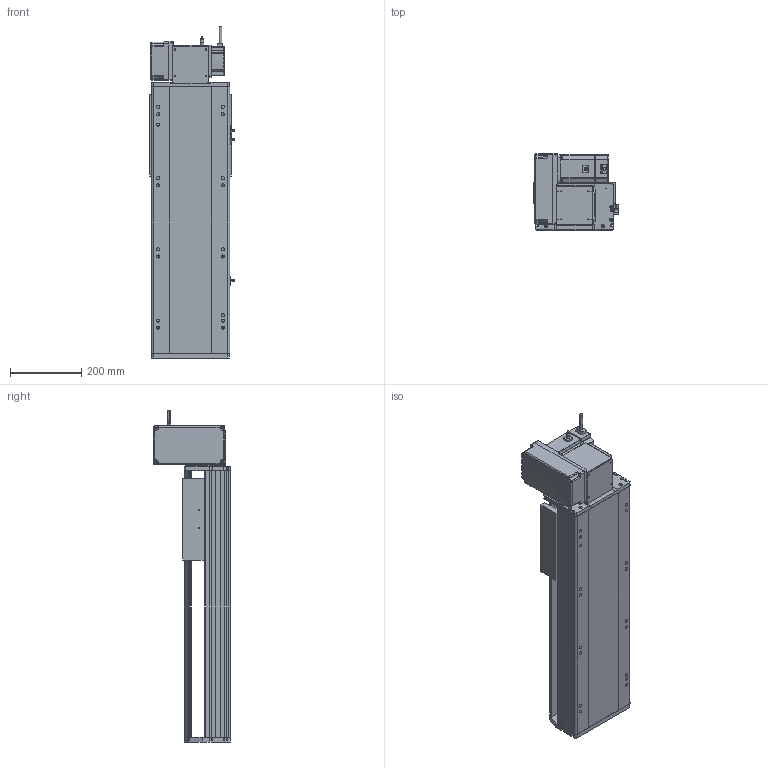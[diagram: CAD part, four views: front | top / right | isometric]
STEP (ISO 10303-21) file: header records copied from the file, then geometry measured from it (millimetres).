
FILE_DESCRIPTION (( 'STEP AP214' ), '1' );
FILE_NAME ('RTB22S-XX-400-LW-M75-C4.STEP', '2025-12-12T05:51:48', ( '' ), ( '' ), 'SwSTEP 2.0', 'SolidWorks 2018', '' );
FILE_SCHEMA (( 'AUTOMOTIVE_DESIGN' ));
Length unit declared in the file: millimetre
Products named in the file (14): 750W萇儂^RTB22S-XX-XX-LW-M75-C4; RTB22S-L-011菁釱^RTB22S-XX-XX-LW-M75-C4; RTB22S-GY-018P^RTB22S-LW-々湍釱蚾饜_RTB22S-XX-XX-LW-M75-C4; RTB22S-GY-017P^RTB22S-LW-々湍釱蚾饜_RTB22S-XX-XX-LW-M75-C4; RTB22S-GY-001耜裔^RTB22S-XX-XX-LW-M75-C4; OMRON EE-SX672 传感器^RTB22S-XX-XX-LW-M75-C4; RTB22S-GY-008-M75--萇儂啣^RTB22S-LW-々湍釱蚾饜_RTB22S-XX-XX-LW-M75-C4; RTB22S-GY-005P^RTB22S-LW-々湍釱蚾饜_RTB22S-XX-XX-LW-M75-C4; RTB22S-GY-014--々湍釱^RTB22S-LW-々湍釱蚾饜_RTB22S-XX-XX-LW-M75-C4; RTH22-GY-013外置感应片^RTB22S-XX-XX-LW-M75-C4; RTB22S-L-004賑釱^RTB22S-XX-XX-LW-M75-C4; RTB22S-XX-400-LW-M75-C4; RTB22S-GY-007奻裔^RTB22S-XX-XX-LW-M75-C4; RTB22S-LW-々湍釱蚾饜^RTB22S-XX-XX-LW-M75-C4
Assembly tree (16 placements, depth 3):
  RTB22S-XX-400-LW-M75-C4
    RTB22S-L-011菁釱^RTB22S-XX-XX-LW-M75-C4
    RTB22S-GY-001耜裔^RTB22S-XX-XX-LW-M75-C4
    750W萇儂^RTB22S-XX-XX-LW-M75-C4
    RTB22S-GY-007奻裔^RTB22S-XX-XX-LW-M75-C4
    RTB22S-L-004賑釱^RTB22S-XX-XX-LW-M75-C4
    RTH22-GY-013外置感应片^RTB22S-XX-XX-LW-M75-C4
    OMRON EE-SX672 传感器^RTB22S-XX-XX-LW-M75-C4  x3
    RTB22S-LW-々湍釱蚾饜^RTB22S-XX-XX-LW-M75-C4
      RTB22S-GY-014--々湍釱^RTB22S-LW-々湍釱蚾饜_RTB22S-XX-XX-LW-M75-C4
      RTB22S-GY-017P^RTB22S-LW-々湍釱蚾饜_RTB22S-XX-XX-LW-M75-C4  x2
      RTB22S-GY-005P^RTB22S-LW-々湍釱蚾饜_RTB22S-XX-XX-LW-M75-C4
      RTB22S-GY-008-M75--萇儂啣^RTB22S-LW-々湍釱蚾饜_RTB22S-XX-XX-LW-M75-C4
      RTB22S-GY-018P^RTB22S-LW-々湍釱蚾饜_RTB22S-XX-XX-LW-M75-C4
Bounding box: 238.5 x 215.5 x 932.2 mm (x, y, z)
Volume: 14303215.3 mm3; surface area: 1516078.4 mm2
Topology: 15 solids, 15 shells, 1911 faces, 5186 edges, 3332 vertices
Faces by surface type: plane 907, cylinder 574, bspline 296, cone 122, sphere 8, torus 4
Entity records: 50136 total; most frequent: CARTESIAN_POINT 14580, ORIENTED_EDGE 7192, DIRECTION 6850, EDGE_CURVE 3596, AXIS2_PLACEMENT_3D 2390, VERTEX_POINT 2336, LINE 2070, VECTOR 2070
